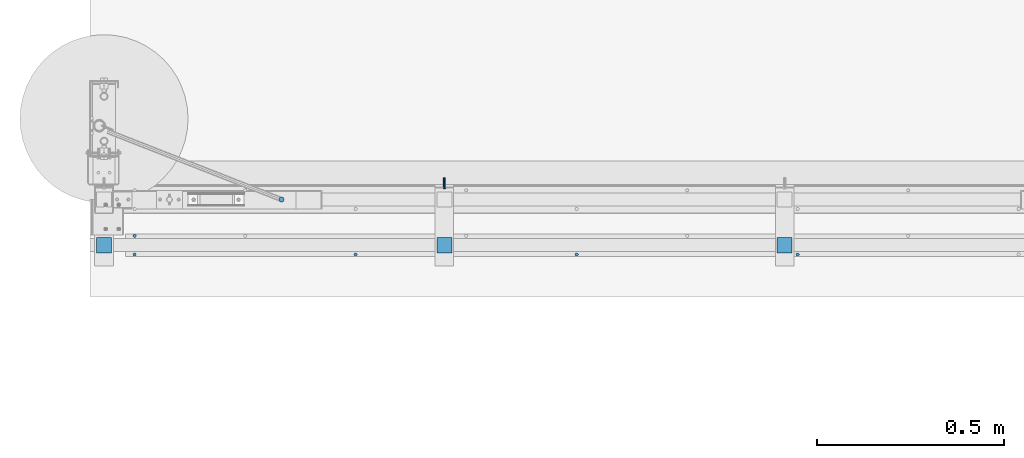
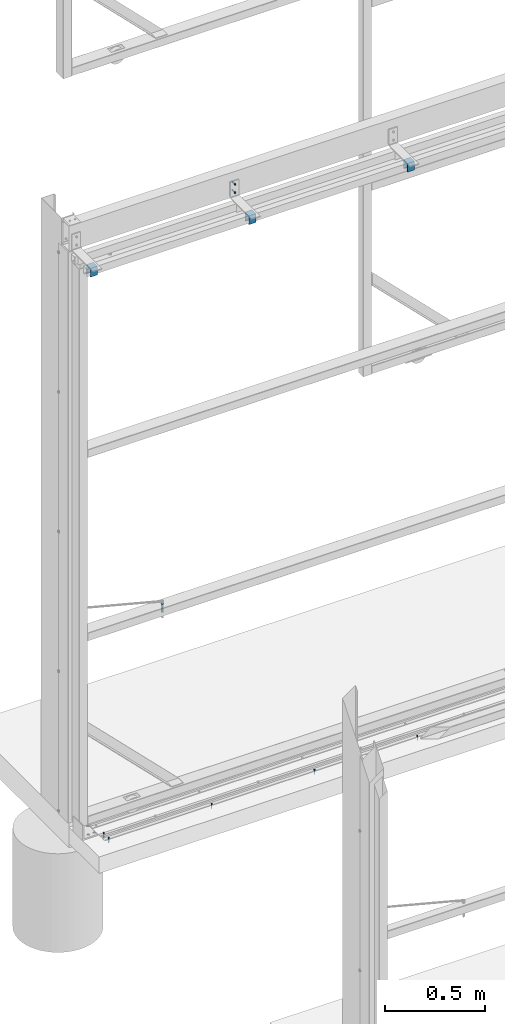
# One storey, part 33 of 91: 6 mechanical fasteners, 3 discrete accessories, 5 elements without a shape of their own.
"""IFC2X3 building model written with IfcOpenShell, lengths in millimetres."""

from ifc_helpers import new_model, si_unit, frame, origin_with_axes, origin_2d_with_axis, place, context, subcontext, project, spatial, polyline, circle, c_section, outline, extrude, source, transform, mapped, material, type_object, element, aggregate, save


model = new_model("IFC2X3")

# Units and contexts
model_context = context("Model", 3, precision=1e-05, world=origin_with_axes())
body_context = subcontext(model_context, "Body", "Model", "MODEL_VIEW")
ifc_project = project(units=[si_unit("LENGTHUNIT", "METRE", prefix="MILLI"), si_unit("AREAUNIT", "SQUARE_METRE"), si_unit("VOLUMEUNIT", "CUBIC_METRE"), si_unit("MASSUNIT", "GRAM", prefix="KILO"), si_unit("TIMEUNIT", "SECOND"), si_unit("PLANEANGLEUNIT", "RADIAN"), si_unit("SOLIDANGLEUNIT", "STERADIAN"), si_unit("THERMODYNAMICTEMPERATUREUNIT", "DEGREE_CELSIUS"), si_unit("LUMINOUSINTENSITYUNIT", "LUMEN")], contexts=[model_context])

# Site, building, storey
site_placement = place(None, origin_with_axes())
site = spatial("IfcSite", under=ifc_project, at=site_placement, Name="Undefined", CompositionType="ELEMENT")
building_placement = place(site_placement, origin_with_axes())
building = spatial("IfcBuilding", under=site, at=building_placement, Name="Undefined", CompositionType="ELEMENT")
storey_placement = place(building_placement, origin_with_axes())
storey = spatial("IfcBuildingStorey", under=building, at=storey_placement, Name="Undefined", CompositionType="ELEMENT", Elevation=0.0)

# Assembly, mechanical fastener
assembly_1_placement = place(storey_placement, origin_with_axes())
assembly_1 = element("IfcElementAssembly", 1, at=assembly_1_placement, inside=storey, Name="SLIDING DOOR", AssemblyPlace="NOTDEFINED", PredefinedType="RIGID_FRAME")
ifc_material_1 = material(Name="8.8S")
discrete_accessory_type_1 = type_object("IfcDiscreteAccessoryType", Name="Bolt assembly")
shared_shape_1 = source(origin_with_axes(), body_context, "Body", "SweptSolid", [
    extrude(circle(Radius=7.0, at=origin_2d_with_axis()), frame((0.0, 0.0033333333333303, 0.0), z_axis=(0.0, 1.0, 0.0), x_axis=(1.0, 0.0, 0.0)), (0.0, 0.0, 1.0), 50.1),
])
mechanical_fastener_1_placement = place(assembly_1_placement, frame((-116320.836232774, 87712.15, 1147.34), z_axis=(1.0, 0.0, 0.0), x_axis=(0.0, -1.0, 0.0)))
mechanical_fastener_1 = element("IfcMechanicalFastener", 2, at=mechanical_fastener_1_placement, type_object=discrete_accessory_type_1, material=ifc_material_1, Name="Bolt assembly", NominalDiameter=12.0, NominalLength=49.9966659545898, context=body_context, shape_type="MappedRepresentation", body=[
    mapped(shared_shape_1, transform((0.0, 0.0, 0.0))),
])
aggregate(assembly_1, [mechanical_fastener_1])

assembly_2_placement = place(storey_placement, origin_with_axes())
assembly_2 = element("IfcElementAssembly", 3, at=assembly_2_placement, inside=storey, Name="DOOR BRACKET", AssemblyPlace="NOTDEFINED", PredefinedType="RIGID_FRAME")
ifc_material_2 = material(Name="TEK_11TPIM")
shared_shape_2 = source(origin_with_axes(), body_context, "Body", "SweptSolid", [
    extrude(circle(Radius=3.0, at=origin_2d_with_axis()), frame((0.0, -6.0, 0.0), z_axis=(0.0, 1.0, 0.0), x_axis=(1.0, 0.0, 0.0)), (0.0, 0.0, 1.0), 6.1),
    extrude(outline(polyline([(4.61880215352, 0.0), (2.30940107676, 4.00000000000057), (-2.30940107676, 4.00000000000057), (-4.61880215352, 0.0), (-2.30940107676, -4.00000000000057), (2.30940107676, -4.00000000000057), (4.61880215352, 0.0)])), frame((0.0, -11.1000000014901, 0.0), z_axis=(0.0, 1.0, 0.0), x_axis=(1.0, 0.0, 0.0)), (0.0, 0.0, 1.0), 5.0),
    extrude(circle(Radius=3.0, at=origin_2d_with_axis()), frame((0.0, -6.10000000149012, 0.0), z_axis=(0.0, 1.0, 0.0), x_axis=(1.0, 0.0, 0.0)), (0.0, 0.0, 1.0), 25.0),
    extrude(circle(Radius=3.0, at=origin_2d_with_axis()), frame((0.0, -6.10000000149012, 0.0), z_axis=(0.0, 1.0, 0.0), x_axis=(1.0, 0.0, 0.0)), (0.0, 0.0, 1.0), 0.1),
    extrude(circle(Radius=3.0, at=origin_2d_with_axis()), frame((0.0, 0.0, 0.0), z_axis=(0.0, 1.0, 0.0), x_axis=(1.0, 0.0, 0.0)), (0.0, 0.0, 1.0), 0.1),
    extrude(outline(polyline([(3.46410161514, 0.0), (1.73205080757, 3.00000000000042), (-1.73205080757, 3.00000000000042), (-3.46410161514, 0.0), (-1.73205080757, -3.00000000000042), (1.73205080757, -3.00000000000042), (3.46410161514, 0.0)])), frame((0.0, 0.1, 0.0), z_axis=(0.0, 1.0, 0.0), x_axis=(1.0, 0.0, 0.0)), (0.0, 0.0, 1.0), 0.1),
])
mechanical_fastener_2_placement = place(assembly_2_placement, frame((-115884.59, 87752.15, 3524.0), z_axis=(1.0, 0.0, 0.0), x_axis=(0.0, 0.0, -1.0)))
mechanical_fastener_2 = element("IfcMechanicalFastener", 4, at=mechanical_fastener_2_placement, type_object=discrete_accessory_type_1, material=ifc_material_2, Name="Bolt assembly", NominalDiameter=6.0, NominalLength=25.0, context=body_context, shape_type="MappedRepresentation", body=[
    mapped(shared_shape_2, transform((0.0, 0.0, 0.0))),
    mapped(shared_shape_2, transform((50.0, 0.0, 0.0))),
])

# Assembly, mechanical fasteners
assembly_3_placement = place(storey_placement, origin_with_axes())
assembly_3 = element("IfcElementAssembly", 5, at=assembly_3_placement, inside=storey, Name="DOOR TRACK", AssemblyPlace="NOTDEFINED", PredefinedType="RIGID_FRAME")
ifc_material_3 = material(Name="TEK_10TPII")
shared_shape_3 = source(origin_with_axes(), body_context, "Body", "SweptSolid", [
    extrude(circle(Radius=4.07999992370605, at=origin_2d_with_axis()), frame((0.0, 0.0, 0.0), z_axis=(0.0, 1.0, 0.0), x_axis=(1.0, 0.0, 0.0)), (0.0, 0.0, 1.0), 3.1),
    extrude(outline(polyline([(4.61880215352, 0.0), (2.30940107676, 4.00000000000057), (-2.30940107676, 4.00000000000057), (-4.61880215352, 0.0), (-2.30940107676, -4.00000000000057), (2.30940107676, -4.00000000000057), (4.61880215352, 0.0)])), frame((0.0, -5.0, 0.0), z_axis=(0.0, 1.0, 0.0), x_axis=(1.0, 0.0, 0.0)), (0.0, 0.0, 1.0), 5.0),
    extrude(circle(Radius=3.07999992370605, at=origin_2d_with_axis()), frame((0.0, 0.0, 0.0), z_axis=(0.0, 1.0, 0.0), x_axis=(1.0, 0.0, 0.0)), (0.0, 0.0, 1.0), 25.0),
    extrude(circle(Radius=3.0, at=origin_2d_with_axis()), frame((0.0, 3.0, 0.0), z_axis=(0.0, 1.0, 0.0), x_axis=(1.0, 0.0, 0.0)), (0.0, 0.0, 1.0), 0.1),
    extrude(outline(polyline([(3.46410161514, 0.0), (1.73205080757, 3.00000000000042), (-1.73205080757, 3.00000000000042), (-3.46410161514, 0.0), (-1.73205080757, -3.00000000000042), (1.73205080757, -3.00000000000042), (3.46410161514, 0.0)])), frame((0.0, 3.10000000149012, 0.0), z_axis=(0.0, 1.0, 0.0), x_axis=(1.0, 0.0, 0.0)), (0.0, 0.0, 1.0), 0.1),
])
mechanical_fastener_3_placement = place(assembly_3_placement, frame((-114938.44, 87565.151953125, -54.0), z_axis=(0.0, 1.0, 0.0), x_axis=(1.0, 0.0, 0.0)))
mechanical_fastener_3 = element("IfcMechanicalFastener", 6, at=mechanical_fastener_3_placement, type_object=discrete_accessory_type_1, material=ifc_material_3, Name="Bolt assembly", NominalDiameter=6.15999984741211, NominalLength=25.0, context=body_context, shape_type="MappedRepresentation", body=[
    mapped(shared_shape_3, transform((0.0, 0.0, 0.0))),
])
mechanical_fastener_4_placement = place(assembly_3_placement, frame((-115530.24, 87565.151953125, -54.0), z_axis=(0.0, 1.0, 0.0), x_axis=(1.0, 0.0, 0.0)))
mechanical_fastener_4 = element("IfcMechanicalFastener", 7, at=mechanical_fastener_4_placement, type_object=discrete_accessory_type_1, material=ifc_material_3, Name="Bolt assembly", NominalDiameter=6.15999984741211, NominalLength=25.0, context=body_context, shape_type="MappedRepresentation", body=[
    mapped(shared_shape_3, transform((0.0, 0.0, 0.0))),
])
mechanical_fastener_5_placement = place(assembly_3_placement, frame((-116122.04, 87565.151953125, -54.0), z_axis=(0.0, 1.0, 0.0), x_axis=(1.0, 0.0, 0.0)))
mechanical_fastener_5 = element("IfcMechanicalFastener", 8, at=mechanical_fastener_5_placement, type_object=discrete_accessory_type_1, material=ifc_material_3, Name="Bolt assembly", NominalDiameter=6.15999984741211, NominalLength=25.0, context=body_context, shape_type="MappedRepresentation", body=[
    mapped(shared_shape_3, transform((0.0, 0.0, 0.0))),
])
mechanical_fastener_6_placement = place(assembly_3_placement, frame((-116713.84, 87590.151953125, -54.0), z_axis=(0.0, 1.0, 0.0), x_axis=(1.0, 0.0, 0.0)))
mechanical_fastener_6 = element("IfcMechanicalFastener", 9, at=mechanical_fastener_6_placement, type_object=discrete_accessory_type_1, material=ifc_material_3, Name="Bolt assembly", NominalDiameter=6.15999984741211, NominalLength=25.0, context=body_context, shape_type="MappedRepresentation", body=[
    mapped(shared_shape_3, transform((0.0, 0.0, -25.0))),
    mapped(shared_shape_3, transform((0.0, 0.0, 25.0))),
])
aggregate(assembly_3, [mechanical_fastener_3, mechanical_fastener_4, mechanical_fastener_5, mechanical_fastener_6])

# Assembly, discrete accessory
assembly_4_placement = place(storey_placement, origin_with_axes())
assembly_4 = element("IfcElementAssembly", 10, at=assembly_4_placement, inside=storey, Name="DOOR BRACKET", AssemblyPlace="NOTDEFINED", PredefinedType="RIGID_FRAME")
ifc_material_4 = material(Name="STEEL/250")
discrete_accessory_type_2 = type_object("IfcDiscreteAccessoryType", Name="SLIDING DOOR BRACKET")
discrete_accessory_1_placement = place(assembly_4_placement, frame((-114993.34, 87590.15, 3417.5), z_axis=(0.0, -1.0, 0.0), x_axis=(1.0, 0.0, 0.0)))
discrete_accessory_1 = element("IfcDiscreteAccessory", 11, at=discrete_accessory_1_placement, type_object=discrete_accessory_type_2, material=ifc_material_4, Name="SLIDING DOOR BRACKET", ObjectType="CC41-1.5-7-53", context=body_context, shape_type="SweptSolid", body=[
    extrude(c_section(Depth=41.0, Width=53.0, WallThickness=1.5, Girth=7.0, at=origin_2d_with_axis()), frame((40.0, 0.0, 0.0), z_axis=(-1.0, 0.0, 0.0), x_axis=(0.0, -1.0, 0.0)), (0.0, 0.0, 1.0), 40.0),
])
aggregate(assembly_4, [discrete_accessory_1])

# Discrete accessory
discrete_accessory_2_placement = place(assembly_2_placement, frame((-115904.59, 87590.15, 3417.5), z_axis=(0.0, -1.0, 0.0), x_axis=(1.0, 0.0, 0.0)))
discrete_accessory_2 = element("IfcDiscreteAccessory", 12, at=discrete_accessory_2_placement, type_object=discrete_accessory_type_2, material=ifc_material_4, Name="SLIDING DOOR BRACKET", ObjectType="CC41-1.5-7-53", context=body_context, shape_type="SweptSolid", body=[
    extrude(c_section(Depth=41.0, Width=53.0, WallThickness=1.5, Girth=7.0, at=origin_2d_with_axis()), frame((40.0, 0.0, 0.0), z_axis=(-1.0, 0.0, 0.0), x_axis=(0.0, -1.0, 0.0)), (0.0, 0.0, 1.0), 40.0),
])

aggregate(assembly_2, [mechanical_fastener_2, discrete_accessory_2])

# Assembly, discrete accessory
assembly_5_placement = place(storey_placement, origin_with_axes())
assembly_5 = element("IfcElementAssembly", 13, at=assembly_5_placement, inside=storey, Name="DOOR BRACKET", AssemblyPlace="NOTDEFINED", PredefinedType="RIGID_FRAME")
discrete_accessory_3_placement = place(assembly_5_placement, frame((-116815.84, 87590.15, 3417.5), z_axis=(0.0, -1.0, 0.0), x_axis=(1.0, 0.0, 0.0)))
discrete_accessory_3 = element("IfcDiscreteAccessory", 14, at=discrete_accessory_3_placement, type_object=discrete_accessory_type_2, material=ifc_material_4, Name="SLIDING DOOR BRACKET", ObjectType="CC41-1.5-7-53", context=body_context, shape_type="SweptSolid", body=[
    extrude(c_section(Depth=41.0, Width=53.0, WallThickness=1.5, Girth=7.0, at=origin_2d_with_axis()), frame((40.0, 0.0, 0.0), z_axis=(-1.0, 0.0, 0.0), x_axis=(0.0, -1.0, 0.0)), (0.0, 0.0, 1.0), 40.0),
])
aggregate(assembly_5, [discrete_accessory_3])

save(model, "model.ifc")
